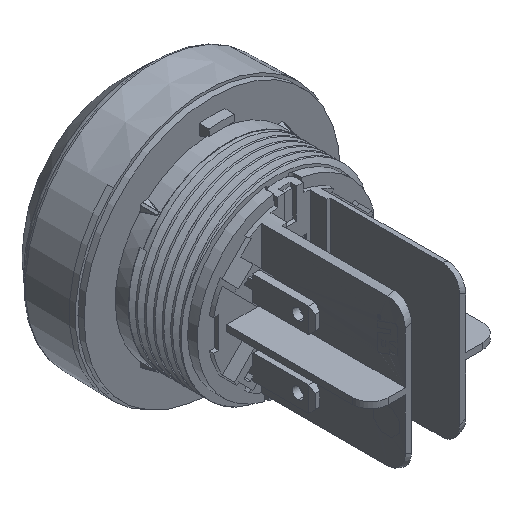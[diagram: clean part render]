
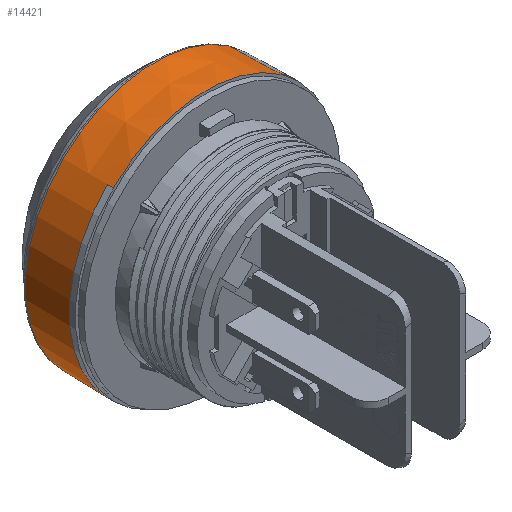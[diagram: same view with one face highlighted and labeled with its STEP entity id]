
A CAD part, isometric view. The second image highlights one B-rep face of the part: STEP entity #14421.
In plain terms, the highlighted conical face has half-angle 1 degrees and reference radius 14.849 mm.
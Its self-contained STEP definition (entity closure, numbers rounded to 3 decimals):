
#2257=CARTESIAN_POINT('',(0.,15.8,0.));
#2258=DIRECTION('',(0.,1.,0.));
#2259=DIRECTION('',(-0.707,0.,0.707));
#2260=AXIS2_PLACEMENT_3D('',#2257,#2258,#2259);
#2262=CARTESIAN_POINT('',(0.,15.8,0.));
#2263=DIRECTION('',(0.,1.,0.));
#2264=DIRECTION('',(0.574,0.,0.819));
#2265=AXIS2_PLACEMENT_3D('',#2262,#2263,#2264);
#2277=CARTESIAN_POINT('',(0.,16.5,0.));
#2278=DIRECTION('',(0.,1.,0.));
#2279=DIRECTION('',(-0.574,0.,-0.819));
#2280=AXIS2_PLACEMENT_3D('',#2277,#2278,#2279);
#2282=DIRECTION('',(-0.012,-1.,0.012));
#2283=VECTOR('',#2282,0.7);
#2284=CARTESIAN_POINT('',(-10.527,16.5,10.527));
#2285=LINE('',#2284,#2283);
#2286=DIRECTION('',(-0.01,1.,-0.014));
#2287=VECTOR('',#2286,5.108);
#2288=CARTESIAN_POINT('',(8.539,16.5,12.195));
#2289=LINE('',#2288,#2287);
#2305=CARTESIAN_POINT('',(0.,21.607,0.));
#2306=DIRECTION('',(0.,-1.,0.));
#2307=DIRECTION('',(0.574,0.,0.819));
#2308=AXIS2_PLACEMENT_3D('',#2305,#2306,#2307);
#2310=CARTESIAN_POINT('',(0.,21.607,0.));
#2311=DIRECTION('',(0.,-1.,0.));
#2312=DIRECTION('',(-0.707,0.,0.707));
#2313=AXIS2_PLACEMENT_3D('',#2310,#2311,#2312);
#2320=CARTESIAN_POINT('',(0.,16.5,0.));
#2321=DIRECTION('',(0.,1.,0.));
#2322=DIRECTION('',(0.574,0.,0.819));
#2323=AXIS2_PLACEMENT_3D('',#2320,#2321,#2322);
#2325=DIRECTION('',(0.012,-1.,-0.012));
#2326=VECTOR('',#2325,0.7);
#2327=CARTESIAN_POINT('',(10.527,16.5,-10.527));
#2328=LINE('',#2327,#2326);
#2329=DIRECTION('',(0.01,1.,0.014));
#2330=VECTOR('',#2329,5.108);
#2331=CARTESIAN_POINT('',(-8.539,16.5,-12.195));
#2332=LINE('',#2331,#2330);
#10474=CARTESIAN_POINT('',(-10.536,15.8,10.536));
#10476=VERTEX_POINT('',#10474);
#10477=CARTESIAN_POINT('',(10.536,15.8,-10.536));
#10478=VERTEX_POINT('',#10477);
#10479=CARTESIAN_POINT('',(8.546,15.8,12.205));
#10480=VERTEX_POINT('',#10479);
#10481=CARTESIAN_POINT('',(-8.488,21.607,
-12.122));
#10483=VERTEX_POINT('',#10481);
#10485=CARTESIAN_POINT('',(8.488,21.607,12.122));
#10486=VERTEX_POINT('',#10485);
#10487=CARTESIAN_POINT('',(-8.539,16.5,-12.195));
#10488=VERTEX_POINT('',#10487);
#10489=CARTESIAN_POINT('',(-10.527,16.5,10.527));
#10490=VERTEX_POINT('',#10489);
#10491=CARTESIAN_POINT('',(10.527,16.5,-10.527));
#10492=VERTEX_POINT('',#10491);
#10493=CARTESIAN_POINT('',(8.539,16.5,12.195));
#10494=VERTEX_POINT('',#10493);
#10501=CARTESIAN_POINT('',(-10.46,21.607,
10.468));
#10502=VERTEX_POINT('',#10501);
#14404=CARTESIAN_POINT('',(0.,18.703,0.));
#14405=DIRECTION('',(0.,-1.,0.));
#14406=DIRECTION('',(-0.574,0.,-0.819));
#14407=AXIS2_PLACEMENT_3D('',#14404,#14405,#14406);
#14408=CONICAL_SURFACE('',#14407,14.849,1.);
#14409=ORIENTED_EDGE('',*,*,#14393,.F.);
#14410=ORIENTED_EDGE('',*,*,#14391,.F.);
#14411=ORIENTED_EDGE('',*,*,#14363,.F.);
#14412=ORIENTED_EDGE('',*,*,#14361,.T.);
#14413=ORIENTED_EDGE('',*,*,#14359,.T.);
#14414=ORIENTED_EDGE('',*,*,#14332,.F.);
#14415=ORIENTED_EDGE('',*,*,#14330,.F.);
#14416=ORIENTED_EDGE('',*,*,#14355,.F.);
#14417=ORIENTED_EDGE('',*,*,#14353,.F.);
#14418=ORIENTED_EDGE('',*,*,#14351,.T.);
#14419=EDGE_LOOP('',(#14409,#14410,#14411,#14412,#14413,#14414,#14415,#14416,
#14417,#14418));
#14420=FACE_OUTER_BOUND('',#14419,.F.);
#2261=CIRCLE('',#2260,14.9);
#2266=CIRCLE('',#2265,14.9);
#2281=CIRCLE('',#2280,14.888);
#2309=CIRCLE('',#2308,14.799);
#2314=CIRCLE('',#2313,14.799);
#2324=CIRCLE('',#2323,14.888);
#14330=EDGE_CURVE('',#10476,#10480,#2261,.T.);
#14332=EDGE_CURVE('',#10480,#10478,#2266,.T.);
#14351=EDGE_CURVE('',#10488,#10483,#2332,.T.);
#14353=EDGE_CURVE('',#10488,#10490,#2281,.T.);
#14355=EDGE_CURVE('',#10490,#10476,#2285,.T.);
#14359=EDGE_CURVE('',#10492,#10478,#2328,.T.);
#14361=EDGE_CURVE('',#10494,#10492,#2324,.T.);
#14363=EDGE_CURVE('',#10494,#10486,#2289,.T.);
#14391=EDGE_CURVE('',#10486,#10502,#2309,.T.);
#14393=EDGE_CURVE('',#10502,#10483,#2314,.T.);
#14421=ADVANCED_FACE('',(#14420),#14408,.T.);
